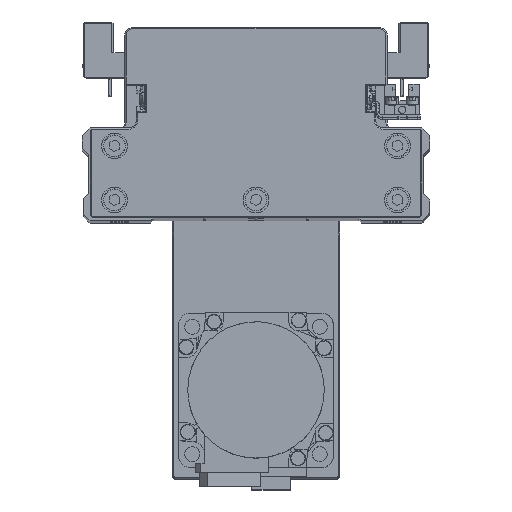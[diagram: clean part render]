
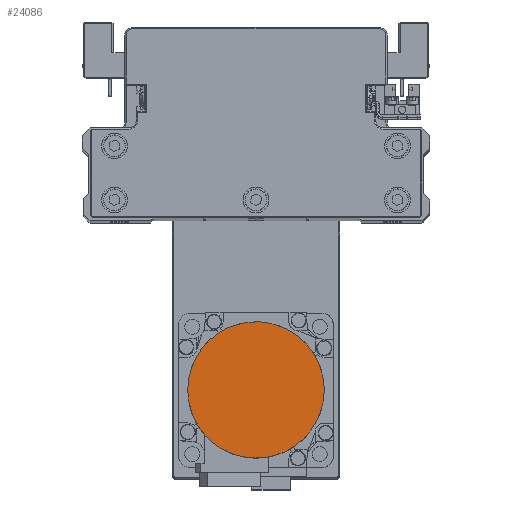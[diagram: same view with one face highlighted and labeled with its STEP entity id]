
A CAD part, top view. The second image highlights one B-rep face of the part: STEP entity #24086.
In plain terms, the highlighted planar face has unit normal (0, 0, 1) as drawn and (0, 0, -1) by its records, which use the part's own axes.
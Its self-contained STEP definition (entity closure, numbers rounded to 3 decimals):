
#245 = CARTESIAN_POINT ( 'NONE',  ( 25.147, 8.539, -109.7 ) ) ;
#453 = CARTESIAN_POINT ( 'NONE',  ( -1.734, 26.5, -109.7 ) ) ;
#660 = CARTESIAN_POINT ( 'NONE',  ( -25.652, 6.871, -109.7 ) ) ;
#2430 = CARTESIAN_POINT ( 'NONE',  ( -25.147, -8.539, -109.7 ) ) ;
#2637 = CARTESIAN_POINT ( 'NONE',  ( 1.734, -26.5, -109.7 ) ) ;
#2827 = CARTESIAN_POINT ( 'NONE',  ( 25.652, -6.871, -109.7 ) ) ;
#3305 = CARTESIAN_POINT ( 'NONE',  ( 26.5, 1.734, -109.7 ) ) ;
#3513 = CARTESIAN_POINT ( 'NONE',  ( 6.871, 25.652, -109.7 ) ) ;
#3726 = CARTESIAN_POINT ( 'NONE',  ( -22.998, 13.28, -109.7 ) ) ;
#5510 = CARTESIAN_POINT ( 'NONE',  ( -26.5, -1.734, -109.7 ) ) ;
#5705 = CARTESIAN_POINT ( 'NONE',  ( -6.871, -25.652, -109.7 ) ) ;
#5906 = CARTESIAN_POINT ( 'NONE',  ( 22.998, -13.28, -109.7 ) ) ;
#6220 = AXIS2_PLACEMENT_3D ( 'NONE', #39809, #11894, #24323 ) ;
#6592 = CARTESIAN_POINT ( 'NONE',  ( 13.28, 22.998, -109.7 ) ) ;
#6797 = CARTESIAN_POINT ( 'NONE',  ( -17.512, 19.965, -109.7 ) ) ;
#8768 = CARTESIAN_POINT ( 'NONE',  ( -13.28, -22.998, -109.7 ) ) ;
#8967 = CARTESIAN_POINT ( 'NONE',  ( 17.512, -19.965, -109.7 ) ) ;
#9659 = CARTESIAN_POINT ( 'NONE',  ( 19.965, 17.512, -109.7 ) ) ;
#9863 = CARTESIAN_POINT ( 'NONE',  ( -11.744, 23.819, -109.7 ) ) ;
#11842 = CARTESIAN_POINT ( 'NONE',  ( -19.965, -17.512, -109.7 ) ) ;
#11894 = DIRECTION ( 'NONE',  ( 0., 0., 1. ) ) ;
#12033 = CARTESIAN_POINT ( 'NONE',  ( 11.744, -23.819, -109.7 ) ) ;
#12721 = CARTESIAN_POINT ( 'NONE',  ( 23.819, 11.744, -109.7 ) ) ;
#12934 = CARTESIAN_POINT ( 'NONE',  ( -3.469, 26.329, -109.7 ) ) ;
#13135 = CARTESIAN_POINT ( 'NONE',  ( -26.329, 3.469, -109.7 ) ) ;
#14702 = CARTESIAN_POINT ( 'NONE',  ( -26.5, 0., -109.7 ) ) ;
#14913 = CARTESIAN_POINT ( 'NONE',  ( -23.819, -11.744, -109.7 ) ) ;
#14963 = FACE_OUTER_BOUND ( 'NONE', #37915, .T. ) ;
#15109 = CARTESIAN_POINT ( 'NONE',  ( 3.469, -26.329, -109.7 ) ) ;
#15299 = CARTESIAN_POINT ( 'NONE',  ( 26.329, -3.469, -109.7 ) ) ;
#15780 = CARTESIAN_POINT ( 'NONE',  ( 26.329, 3.469, -109.7 ) ) ;
#15975 = CARTESIAN_POINT ( 'NONE',  ( 3.469, 26.329, -109.7 ) ) ;
#16188 = CARTESIAN_POINT ( 'NONE',  ( -23.819, 11.744, -109.7 ) ) ;
#17957 = CARTESIAN_POINT ( 'NONE',  ( -26.329, -3.469, -109.7 ) ) ;
#18159 = CARTESIAN_POINT ( 'NONE',  ( -3.469, -26.329, -109.7 ) ) ;
#18356 = CARTESIAN_POINT ( 'NONE',  ( 23.819, -11.744, -109.7 ) ) ;
#19046 = CARTESIAN_POINT ( 'NONE',  ( 11.744, 23.819, -109.7 ) ) ;
#19249 = CARTESIAN_POINT ( 'NONE',  ( -19.965, 17.512, -109.7 ) ) ;
#21218 = CARTESIAN_POINT ( 'NONE',  ( -11.744, -23.819, -109.7 ) ) ;
#21421 = CARTESIAN_POINT ( 'NONE',  ( 19.965, -17.512, -109.7 ) ) ;
#22102 = CARTESIAN_POINT ( 'NONE',  ( 17.512, 19.965, -109.7 ) ) ;
#22306 = CARTESIAN_POINT ( 'NONE',  ( -13.28, 22.998, -109.7 ) ) ;
#22678 = EDGE_CURVE ( 'NONE', #26945, #29012, #35413, .T. ) ;
#24086 = ADVANCED_FACE ( 'NONE', ( #14963 ), #27395, .F. ) ;
#24273 = CARTESIAN_POINT ( 'NONE',  ( -17.512, -19.965, -109.7 ) ) ;
#24323 = DIRECTION ( 'NONE',  ( 1., 0., 0. ) ) ;
#24466 = CARTESIAN_POINT ( 'NONE',  ( 13.28, -22.998, -109.7 ) ) ;
#25147 = CARTESIAN_POINT ( 'NONE',  ( 22.998, 13.28, -109.7 ) ) ;
#25355 = CARTESIAN_POINT ( 'NONE',  ( -6.871, 25.652, -109.7 ) ) ;
#25564 = CARTESIAN_POINT ( 'NONE',  ( -26.5, 1.734, -109.7 ) ) ;
#26945 = VERTEX_POINT ( 'NONE', #32369 ) ;
#27343 = CARTESIAN_POINT ( 'NONE',  ( -22.998, -13.28, -109.7 ) ) ;
#27395 = PLANE ( 'NONE',  #6220 ) ;
#27540 = CARTESIAN_POINT ( 'NONE',  ( 6.871, -25.652, -109.7 ) ) ;
#27728 = CARTESIAN_POINT ( 'NONE',  ( 26.5, -1.734, -109.7 ) ) ;
#28214 = CARTESIAN_POINT ( 'NONE',  ( 25.652, 6.871, -109.7 ) ) ;
#28415 = CARTESIAN_POINT ( 'NONE',  ( 1.734, 26.5, -109.7 ) ) ;
#28630 = CARTESIAN_POINT ( 'NONE',  ( -25.147, 8.539, -109.7 ) ) ;
#28858 = ORIENTED_EDGE ( 'NONE', *, *, #32404, .F. ) ;
#29012 = VERTEX_POINT ( 'NONE', #14702 ) ;
#29278 = B_SPLINE_CURVE_WITH_KNOTS ( 'NONE', 3,
 ( #33470, #5510, #17957, #30401, #2430, #14913, #27343, #39759, #11842, #24273, #36707, #8768, #21218, #33664, #5705, #18159, #30606, #2637, #15109, #27540, #39953, #12033, #24466, #36905, #8967, #21421, #33864, #5906, #18356, #30798, #2827, #15299, #27728, #40146 ),
 .UNSPECIFIED., .F., .F.,
 ( 4, 2, 2, 2, 2, 2, 2, 2, 2, 2, 2, 2, 2, 2, 2, 2, 4 ),
 ( 0., 0.063, 0.125, 0.188, 0.25, 0.312, 0.375, 0.437, 0.5, 0.562, 0.625, 0.687, 0.75, 0.813, 0.875, 0.938, 1. ),
 .UNSPECIFIED. ) ;
#30401 = CARTESIAN_POINT ( 'NONE',  ( -25.652, -6.871, -109.7 ) ) ;
#30606 = CARTESIAN_POINT ( 'NONE',  ( -1.734, -26.5, -109.7 ) ) ;
#30798 = CARTESIAN_POINT ( 'NONE',  ( 25.147, -8.539, -109.7 ) ) ;
#31284 = CARTESIAN_POINT ( 'NONE',  ( 26.5, 0., -109.7 ) ) ;
#31486 = CARTESIAN_POINT ( 'NONE',  ( 8.539, 25.147, -109.7 ) ) ;
#31689 = CARTESIAN_POINT ( 'NONE',  ( -21.07, 16.165, -109.7 ) ) ;
#32369 = CARTESIAN_POINT ( 'NONE',  ( 26.5, 0., -109.7 ) ) ;
#32404 = EDGE_CURVE ( 'NONE', #29012, #26945, #29278, .T. ) ;
#33470 = CARTESIAN_POINT ( 'NONE',  ( -26.5, 0., -109.7 ) ) ;
#33664 = CARTESIAN_POINT ( 'NONE',  ( -8.539, -25.147, -109.7 ) ) ;
#33864 = CARTESIAN_POINT ( 'NONE',  ( 21.07, -16.165, -109.7 ) ) ;
#34547 = CARTESIAN_POINT ( 'NONE',  ( 16.165, 21.07, -109.7 ) ) ;
#34741 = CARTESIAN_POINT ( 'NONE',  ( -16.165, 21.07, -109.7 ) ) ;
#35413 = B_SPLINE_CURVE_WITH_KNOTS ( 'NONE', 3,
 ( #31284, #3305, #15780, #28214, #245, #12721, #25147, #37583, #9659, #22102, #34547, #6592, #19046, #31486, #3513, #15975, #28415, #453, #12934, #25355, #37787, #9863, #22306, #34741, #6797, #19249, #31689, #3726, #16188, #28630, #660, #13135, #25564, #37988 ),
 .UNSPECIFIED., .F., .F.,
 ( 4, 2, 2, 2, 2, 2, 2, 2, 2, 2, 2, 2, 2, 2, 2, 2, 4 ),
 ( 0., 0.062, 0.125, 0.187, 0.25, 0.312, 0.375, 0.437, 0.5, 0.562, 0.625, 0.687, 0.75, 0.813, 0.875, 0.938, 1. ),
 .UNSPECIFIED. ) ;
#35718 = ORIENTED_EDGE ( 'NONE', *, *, #22678, .F. ) ;
#36707 = CARTESIAN_POINT ( 'NONE',  ( -16.165, -21.07, -109.7 ) ) ;
#36905 = CARTESIAN_POINT ( 'NONE',  ( 16.165, -21.07, -109.7 ) ) ;
#37583 = CARTESIAN_POINT ( 'NONE',  ( 21.07, 16.165, -109.7 ) ) ;
#37787 = CARTESIAN_POINT ( 'NONE',  ( -8.539, 25.147, -109.7 ) ) ;
#37915 = EDGE_LOOP ( 'NONE', ( #35718, #28858 ) ) ;
#37988 = CARTESIAN_POINT ( 'NONE',  ( -26.5, 0., -109.7 ) ) ;
#39759 = CARTESIAN_POINT ( 'NONE',  ( -21.07, -16.165, -109.7 ) ) ;
#39809 = CARTESIAN_POINT ( 'NONE',  ( 0., 0., -109.7 ) ) ;
#39953 = CARTESIAN_POINT ( 'NONE',  ( 8.539, -25.147, -109.7 ) ) ;
#40146 = CARTESIAN_POINT ( 'NONE',  ( 26.5, 0., -109.7 ) ) ;
